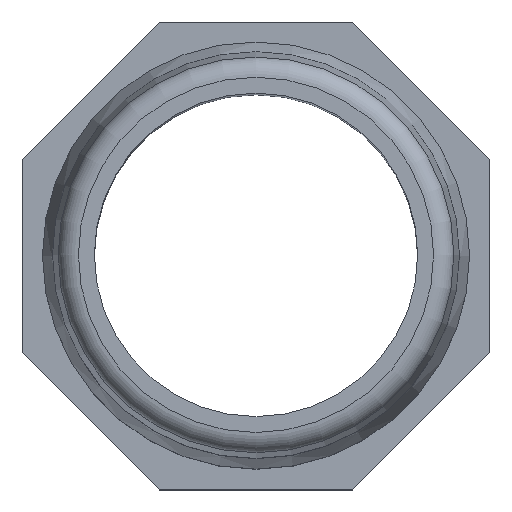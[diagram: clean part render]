
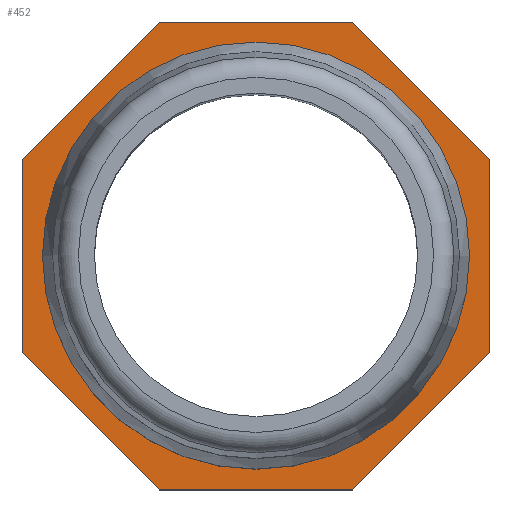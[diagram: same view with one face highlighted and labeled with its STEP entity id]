
A CAD part, top view. The second image highlights one B-rep face of the part: STEP entity #452.
In plain terms, the highlighted planar face has unit normal (0, 0, 1).
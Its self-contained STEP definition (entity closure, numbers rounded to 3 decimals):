
#21=LINE('',#4389,#48);
#22=LINE('',#4391,#49);
#23=LINE('',#4393,#50);
#24=LINE('',#4395,#51);
#25=LINE('',#4397,#52);
#26=LINE('',#4399,#53);
#27=LINE('',#4401,#54);
#28=LINE('',#4402,#55);
#48=VECTOR('',#555,19.054);
#49=VECTOR('',#556,19.054);
#50=VECTOR('',#557,19.054);
#51=VECTOR('',#558,19.054);
#52=VECTOR('',#559,19.054);
#53=VECTOR('',#560,19.054);
#54=VECTOR('',#561,19.054);
#55=VECTOR('',#562,19.054);
#90=PLANE('',#489);
#114=FACE_BOUND('',#174,.T.);
#138=FACE_OUTER_BOUND('',#173,.T.);
#173=EDGE_LOOP('',(#363,#364,#365,#366,#367,#368,#369,#370));
#174=EDGE_LOOP('',(#371));
#217=CIRCLE('',#490,20.);
#243=VERTEX_POINT('',#4387);
#244=VERTEX_POINT('',#4388);
#245=VERTEX_POINT('',#4390);
#246=VERTEX_POINT('',#4392);
#247=VERTEX_POINT('',#4394);
#248=VERTEX_POINT('',#4396);
#249=VERTEX_POINT('',#4398);
#250=VERTEX_POINT('',#4400);
#251=VERTEX_POINT('',#4403);
#292=EDGE_CURVE('',#243,#244,#21,.T.);
#293=EDGE_CURVE('',#244,#245,#22,.T.);
#294=EDGE_CURVE('',#245,#246,#23,.T.);
#295=EDGE_CURVE('',#246,#247,#24,.T.);
#296=EDGE_CURVE('',#247,#248,#25,.T.);
#297=EDGE_CURVE('',#248,#249,#26,.T.);
#298=EDGE_CURVE('',#249,#250,#27,.T.);
#299=EDGE_CURVE('',#250,#243,#28,.T.);
#300=EDGE_CURVE('',#251,#251,#217,.T.);
#363=ORIENTED_EDGE('',*,*,#292,.T.);
#364=ORIENTED_EDGE('',*,*,#293,.T.);
#365=ORIENTED_EDGE('',*,*,#294,.T.);
#366=ORIENTED_EDGE('',*,*,#295,.T.);
#367=ORIENTED_EDGE('',*,*,#296,.T.);
#368=ORIENTED_EDGE('',*,*,#297,.T.);
#369=ORIENTED_EDGE('',*,*,#298,.T.);
#370=ORIENTED_EDGE('',*,*,#299,.T.);
#371=ORIENTED_EDGE('',*,*,#300,.F.);
#452=ADVANCED_FACE('',(#138,#114),#90,.T.);
#489=AXIS2_PLACEMENT_3D('',#4386,#553,#554);
#490=AXIS2_PLACEMENT_3D('',#4404,#563,#564);
#553=DIRECTION('center_axis',(0.,0.,1.));
#554=DIRECTION('ref_axis',(1.,0.,0.));
#555=DIRECTION('',(-0.707,-0.707,0.));
#556=DIRECTION('',(0.,-1.,0.));
#557=DIRECTION('',(0.707,-0.707,0.));
#558=DIRECTION('',(1.,0.,0.));
#559=DIRECTION('',(0.707,0.707,0.));
#560=DIRECTION('',(0.,1.,0.));
#561=DIRECTION('',(-0.707,0.707,0.));
#562=DIRECTION('',(-1.,0.,0.));
#563=DIRECTION('center_axis',(0.,0.,1.));
#564=DIRECTION('ref_axis',(1.,0.,0.));
#4386=CARTESIAN_POINT('Origin',(0.,0.,
36.));
#4387=CARTESIAN_POINT('',(-9.527,23.,36.));
#4388=CARTESIAN_POINT('',(-23.,9.527,36.));
#4389=CARTESIAN_POINT('',(-9.527,23.,36.));
#4390=CARTESIAN_POINT('',(-23.,-9.527,36.));
#4391=CARTESIAN_POINT('',(-23.,9.527,36.));
#4392=CARTESIAN_POINT('',(-9.527,-23.,36.));
#4393=CARTESIAN_POINT('',(-23.,-9.527,36.));
#4394=CARTESIAN_POINT('',(9.527,-23.,36.));
#4395=CARTESIAN_POINT('',(-9.527,-23.,36.));
#4396=CARTESIAN_POINT('',(23.,-9.527,36.));
#4397=CARTESIAN_POINT('',(9.527,-23.,36.));
#4398=CARTESIAN_POINT('',(23.,9.527,36.));
#4399=CARTESIAN_POINT('',(23.,-9.527,36.));
#4400=CARTESIAN_POINT('',(9.527,23.,36.));
#4401=CARTESIAN_POINT('',(23.,9.527,36.));
#4402=CARTESIAN_POINT('',(9.527,23.,36.));
#4403=CARTESIAN_POINT('',(-20.,0.,36.));
#4404=CARTESIAN_POINT('Origin',(0.,0.,36.));
